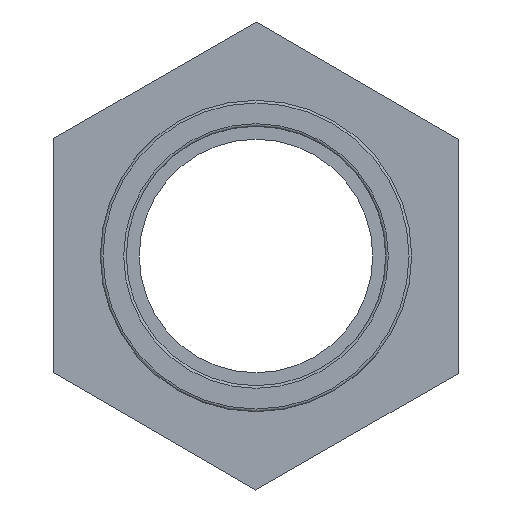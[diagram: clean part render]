
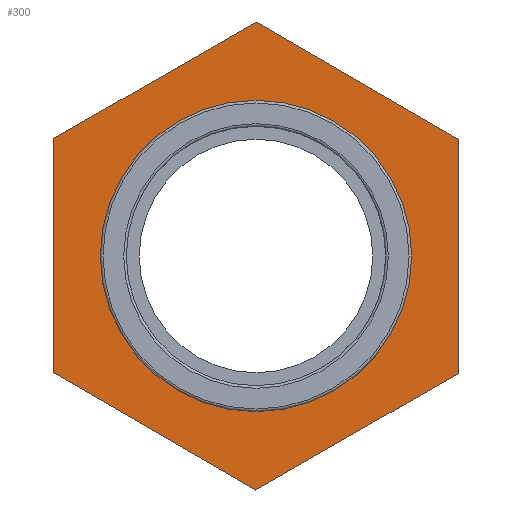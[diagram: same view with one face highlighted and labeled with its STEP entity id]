
A CAD part, left-side view. The second image highlights one B-rep face of the part: STEP entity #300.
In plain terms, the highlighted planar face has unit normal (-1, 0, 0).
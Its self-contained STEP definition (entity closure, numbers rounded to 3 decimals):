
#15=LINE('',#466,#33);
#19=LINE('',#474,#37);
#22=LINE('',#480,#40);
#25=LINE('',#487,#43);
#29=LINE('',#494,#47);
#31=LINE('',#497,#49);
#33=VECTOR('',#386,14.434);
#37=VECTOR('',#392,14.434);
#40=VECTOR('',#397,14.434);
#43=VECTOR('',#402,14.434);
#47=VECTOR('',#408,14.434);
#49=VECTOR('',#412,14.434);
#67=PLANE('',#337);
#82=FACE_BOUND('',#139,.T.);
#103=FACE_OUTER_BOUND('',#138,.T.);
#138=EDGE_LOOP('',(#269,#270,#271,#272,#273,#274));
#139=EDGE_LOOP('',(#275));
#151=CIRCLE('',#324,9.6);
#165=VERTEX_POINT('',#461);
#166=VERTEX_POINT('',#464);
#167=VERTEX_POINT('',#465);
#170=VERTEX_POINT('',#473);
#172=VERTEX_POINT('',#479);
#174=VERTEX_POINT('',#485);
#175=VERTEX_POINT('',#486);
#191=EDGE_CURVE('',#165,#165,#151,.T.);
#192=EDGE_CURVE('',#166,#167,#15,.T.);
#196=EDGE_CURVE('',#167,#170,#19,.T.);
#199=EDGE_CURVE('',#170,#172,#22,.T.);
#202=EDGE_CURVE('',#174,#175,#25,.T.);
#206=EDGE_CURVE('',#175,#166,#29,.T.);
#208=EDGE_CURVE('',#172,#174,#31,.T.);
#269=ORIENTED_EDGE('',*,*,#206,.F.);
#270=ORIENTED_EDGE('',*,*,#202,.F.);
#271=ORIENTED_EDGE('',*,*,#208,.F.);
#272=ORIENTED_EDGE('',*,*,#199,.F.);
#273=ORIENTED_EDGE('',*,*,#196,.F.);
#274=ORIENTED_EDGE('',*,*,#192,.F.);
#275=ORIENTED_EDGE('',*,*,#191,.F.);
#300=ADVANCED_FACE('',(#103,#82),#67,.T.);
#324=AXIS2_PLACEMENT_3D('',#462,#382,#383);
#337=AXIS2_PLACEMENT_3D('',#507,#426,#427);
#382=DIRECTION('center_axis',(-1.,0.,0.));
#383=DIRECTION('ref_axis',(0.,0.,1.));
#386=DIRECTION('',(0.,0.003,-1.));
#392=DIRECTION('',(0.,0.867,-0.498));
#397=DIRECTION('',(0.,0.865,0.502));
#402=DIRECTION('',(0.,-0.867,0.498));
#408=DIRECTION('',(0.,-0.865,-0.502));
#412=DIRECTION('',(0.,-0.003,1.));
#426=DIRECTION('center_axis',(-1.,0.,0.));
#427=DIRECTION('ref_axis',(0.,0.,1.));
#461=CARTESIAN_POINT('',(-6.1,-9.6,0.));
#462=CARTESIAN_POINT('Origin',(-6.1,0.,0.));
#464=CARTESIAN_POINT('',(-6.1,-12.52,7.182));
#465=CARTESIAN_POINT('',(-6.1,-12.48,-7.251));
#466=CARTESIAN_POINT('',(-6.1,-12.49,-3.643));
#473=CARTESIAN_POINT('',(-6.1,0.04,-14.434));
#474=CARTESIAN_POINT('',(-6.1,-3.09,-12.638));
#479=CARTESIAN_POINT('',(-6.1,12.52,-7.182));
#480=CARTESIAN_POINT('',(-6.1,9.4,-8.995));
#485=CARTESIAN_POINT('',(-6.1,12.48,7.251));
#486=CARTESIAN_POINT('',(-6.1,-0.04,14.434));
#487=CARTESIAN_POINT('',(-6.1,3.09,12.638));
#494=CARTESIAN_POINT('',(-6.1,-9.4,8.995));
#497=CARTESIAN_POINT('',(-6.1,12.5,0.034));
#507=CARTESIAN_POINT('Origin',(-6.1,-9.6,0.));
